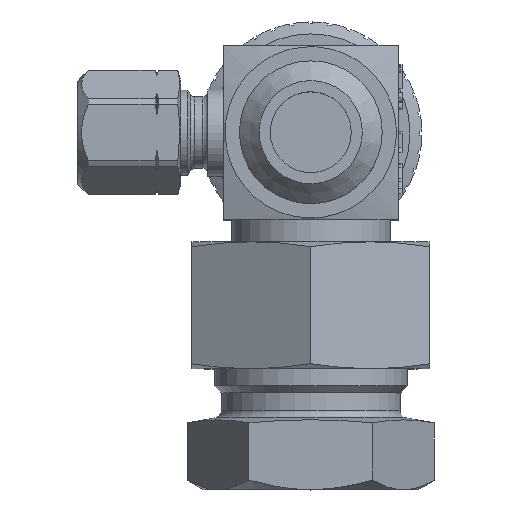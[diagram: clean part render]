
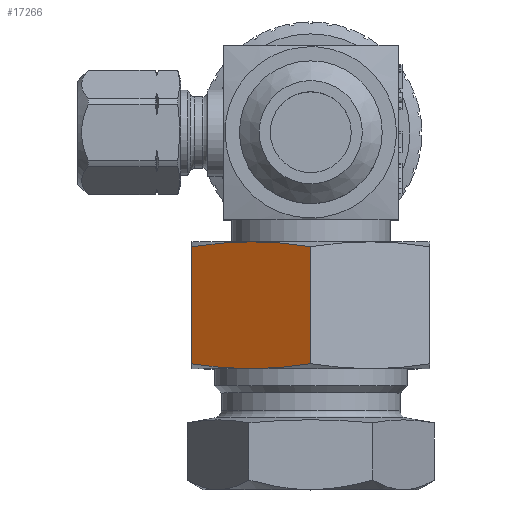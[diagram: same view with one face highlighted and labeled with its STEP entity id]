
A CAD part, top view. The second image highlights one B-rep face of the part: STEP entity #17266.
In plain terms, the highlighted planar face has unit normal (-0.5, 0, 0.866).
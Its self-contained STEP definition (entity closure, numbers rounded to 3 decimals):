
#742=(
BOUNDED_CURVE()
B_SPLINE_CURVE(2,(#29984,#29985,#29986),.UNSPECIFIED.,.F.,.F.)
B_SPLINE_CURVE_WITH_KNOTS((3,3),(19.771,29.817),
 .UNSPECIFIED.)
CURVE()
GEOMETRIC_REPRESENTATION_ITEM()
RATIONAL_B_SPLINE_CURVE((1.,1.076,1.075))
REPRESENTATION_ITEM('')
);
#752=(
BOUNDED_CURVE()
B_SPLINE_CURVE(2,(#30032,#30033,#30034),.UNSPECIFIED.,.F.,.F.)
B_SPLINE_CURVE_WITH_KNOTS((3,3),(9.724,19.771),
 .UNSPECIFIED.)
CURVE()
GEOMETRIC_REPRESENTATION_ITEM()
RATIONAL_B_SPLINE_CURVE((1.075,1.076,1.))
REPRESENTATION_ITEM('')
);
#760=(
BOUNDED_CURVE()
B_SPLINE_CURVE(2,(#30073,#30074,#30075),.UNSPECIFIED.,.F.,.F.)
B_SPLINE_CURVE_WITH_KNOTS((3,3),(9.724,19.771),
 .UNSPECIFIED.)
CURVE()
GEOMETRIC_REPRESENTATION_ITEM()
RATIONAL_B_SPLINE_CURVE((1.075,1.076,1.))
REPRESENTATION_ITEM('')
);
#761=(
BOUNDED_CURVE()
B_SPLINE_CURVE(2,(#30079,#30080,#30081),.UNSPECIFIED.,.F.,.F.)
B_SPLINE_CURVE_WITH_KNOTS((3,3),(19.771,29.817),
 .UNSPECIFIED.)
CURVE()
GEOMETRIC_REPRESENTATION_ITEM()
RATIONAL_B_SPLINE_CURVE((1.,1.076,1.075))
REPRESENTATION_ITEM('')
);
#1412=PLANE('',#18276);
#2301=FACE_OUTER_BOUND('',#3321,.T.);
#3321=EDGE_LOOP('',(#16014,#16015,#16016,#16017,#16018,#16019));
#5148=LINE('',#30105,#6897);
#5151=LINE('',#30110,#6900);
#6897=VECTOR('',#21989,14.756);
#6900=VECTOR('',#21996,14.756);
#8759=VERTEX_POINT('',#29977);
#8761=VERTEX_POINT('',#29982);
#8770=VERTEX_POINT('',#30028);
#8778=VERTEX_POINT('',#30068);
#8779=VERTEX_POINT('',#30072);
#8780=VERTEX_POINT('',#30078);
#11189=EDGE_CURVE('',#8761,#8759,#742,.T.);
#11203=EDGE_CURVE('',#8770,#8761,#752,.T.);
#11215=EDGE_CURVE('',#8778,#8779,#760,.T.);
#11217=EDGE_CURVE('',#8779,#8780,#761,.T.);
#11226=EDGE_CURVE('',#8759,#8778,#5148,.T.);
#11229=EDGE_CURVE('',#8770,#8780,#5151,.T.);
#16014=ORIENTED_EDGE('',*,*,#11189,.F.);
#16015=ORIENTED_EDGE('',*,*,#11203,.F.);
#16016=ORIENTED_EDGE('',*,*,#11229,.T.);
#16017=ORIENTED_EDGE('',*,*,#11217,.F.);
#16018=ORIENTED_EDGE('',*,*,#11215,.F.);
#16019=ORIENTED_EDGE('',*,*,#11226,.F.);
#17266=ADVANCED_FACE('',(#2301),#1412,.T.);
#18276=AXIS2_PLACEMENT_3D('',#30109,#21994,#21995);
#21989=DIRECTION('',(0.,1.,0.));
#21994=DIRECTION('center_axis',(-0.5,0.,0.866));
#21995=DIRECTION('ref_axis',(0.,1.,0.));
#21996=DIRECTION('',(0.,1.,0.));
#29977=CARTESIAN_POINT('',(-15.,-16.633,29.901));
#29982=CARTESIAN_POINT('',(-7.5,-17.255,34.231));
#29984=CARTESIAN_POINT('Ctrl Pts',(-7.5,-17.255,
34.231));
#29985=CARTESIAN_POINT('Ctrl Pts',(-10.981,-17.255,
32.221));
#29986=CARTESIAN_POINT('Ctrl Pts',(-15.,-16.633,
29.901));
#30028=CARTESIAN_POINT('',(0.,-16.633,38.561));
#30032=CARTESIAN_POINT('Ctrl Pts',(0.,-16.633,
38.561));
#30033=CARTESIAN_POINT('Ctrl Pts',(-4.019,-17.255,
36.241));
#30034=CARTESIAN_POINT('Ctrl Pts',(-7.5,-17.255,
34.231));
#30068=CARTESIAN_POINT('',(-15.,-1.877,29.901));
#30072=CARTESIAN_POINT('',(-7.5,-1.255,34.231));
#30073=CARTESIAN_POINT('Ctrl Pts',(-15.,-1.877,
29.901));
#30074=CARTESIAN_POINT('Ctrl Pts',(-10.981,-1.255,
32.221));
#30075=CARTESIAN_POINT('Ctrl Pts',(-7.5,-1.255,
34.231));
#30078=CARTESIAN_POINT('',(0.,-1.877,38.561));
#30079=CARTESIAN_POINT('Ctrl Pts',(-7.5,-1.255,
34.231));
#30080=CARTESIAN_POINT('Ctrl Pts',(-4.019,-1.255,36.241));
#30081=CARTESIAN_POINT('Ctrl Pts',(0.,-1.877,
38.561));
#30105=CARTESIAN_POINT('',(-15.,-16.633,29.901));
#30109=CARTESIAN_POINT('Origin',(0.,-17.255,
38.561));
#30110=CARTESIAN_POINT('',(0.,-16.633,38.561));
